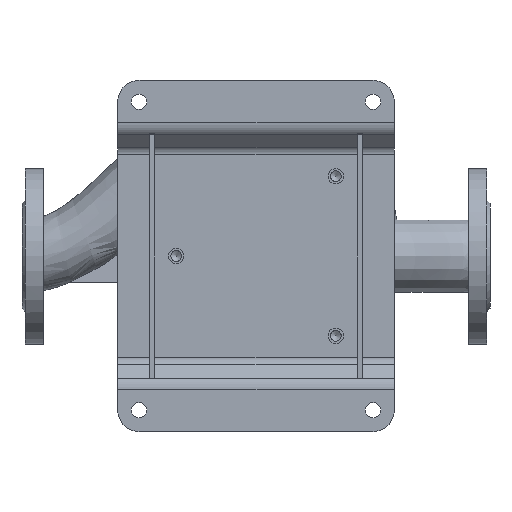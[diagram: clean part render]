
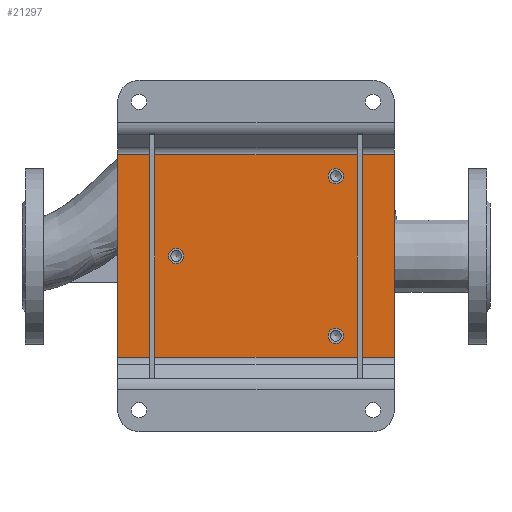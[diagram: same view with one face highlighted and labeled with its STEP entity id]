
A CAD part, top view. The second image highlights one B-rep face of the part: STEP entity #21297.
In plain terms, the highlighted planar face has unit normal (0, 0, 1) as drawn and (0, -1, 0) by its records, which use the part's own axes.
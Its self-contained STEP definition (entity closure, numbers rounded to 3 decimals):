
#841 = CARTESIAN_POINT ( 'NONE',  ( -75., -5., 67.75 ) ) ;
#2261 = DIRECTION ( 'NONE',  ( 0., -1., 0. ) ) ;
#2475 = CARTESIAN_POINT ( 'NONE',  ( 0., -5., 0. ) ) ;
#3588 = DIRECTION ( 'NONE',  ( -1., 0., 0. ) ) ;
#3911 = DIRECTION ( 'NONE',  ( 0., 0., -1. ) ) ;
#4252 = ORIENTED_EDGE ( 'NONE', *, *, #8319, .F. ) ;
#5294 = DIRECTION ( 'NONE',  ( 0., 0., -1. ) ) ;
#5466 = CIRCLE ( 'NONE', #34320, 7.25 ) ;
#5799 = EDGE_CURVE ( 'NONE', #19215, #19215, #31394, .T. ) ;
#7474 = DIRECTION ( 'NONE',  ( 1., 0., 0. ) ) ;
#7635 = AXIS2_PLACEMENT_3D ( 'NONE', #14058, #24221, #3911 ) ;
#8096 = VERTEX_POINT ( 'NONE', #841 ) ;
#8319 = EDGE_CURVE ( 'NONE', #14925, #28120, #9154, .T. ) ;
#8675 = LINE ( 'NONE', #39089, #27274 ) ;
#8800 = DIRECTION ( 'NONE',  ( 0., -1., 0. ) ) ;
#9154 = LINE ( 'NONE', #32087, #37732 ) ;
#9641 = VERTEX_POINT ( 'NONE', #18802 ) ;
#10101 = CARTESIAN_POINT ( 'NONE',  ( 95., -5., -130. ) ) ;
#10637 = CARTESIAN_POINT ( 'NONE',  ( -95., -5., -130. ) ) ;
#10903 = ORIENTED_EDGE ( 'NONE', *, *, #28308, .F. ) ;
#12045 = CARTESIAN_POINT ( 'NONE',  ( -75., -5., 75. ) ) ;
#12295 = EDGE_LOOP ( 'NONE', ( #25272 ) ) ;
#12627 = ORIENTED_EDGE ( 'NONE', *, *, #41726, .F. ) ;
#12928 = EDGE_LOOP ( 'NONE', ( #4252, #10903, #27423, #39652 ) ) ;
#13858 = CARTESIAN_POINT ( 'NONE',  ( -95., -5., 130. ) ) ;
#14058 = CARTESIAN_POINT ( 'NONE',  ( 0., -5., -75. ) ) ;
#14925 = VERTEX_POINT ( 'NONE', #20480 ) ;
#15599 = CARTESIAN_POINT ( 'NONE',  ( -95., -5., -130. ) ) ;
#15946 = DIRECTION ( 'NONE',  ( 0., 0., 1. ) ) ;
#16251 = AXIS2_PLACEMENT_3D ( 'NONE', #2475, #2261, #32445 ) ;
#16744 = EDGE_LOOP ( 'NONE', ( #32726 ) ) ;
#17707 = LINE ( 'NONE', #10637, #25516 ) ;
#18802 = CARTESIAN_POINT ( 'NONE',  ( -95., -5., 130. ) ) ;
#19030 = PLANE ( 'NONE',  #16251 ) ;
#19215 = VERTEX_POINT ( 'NONE', #29349 ) ;
#20480 = CARTESIAN_POINT ( 'NONE',  ( 95., -5., 130. ) ) ;
#21297 = ADVANCED_FACE ( 'NONE', ( #26072, #29371, #29155, #41934 ), #19030, .T. ) ;
#21989 = VERTEX_POINT ( 'NONE', #32725 ) ;
#22200 = DIRECTION ( 'NONE',  ( 0., 0., -1. ) ) ;
#22440 = DIRECTION ( 'NONE',  ( 0., 0., -1. ) ) ;
#24012 = EDGE_CURVE ( 'NONE', #28120, #28352, #17707, .T. ) ;
#24221 = DIRECTION ( 'NONE',  ( 0., -1., 0. ) ) ;
#24550 = CIRCLE ( 'NONE', #7635, 7.25 ) ;
#25272 = ORIENTED_EDGE ( 'NONE', *, *, #5799, .F. ) ;
#25516 = VECTOR ( 'NONE', #3588, 1000. ) ;
#26072 = FACE_BOUND ( 'NONE', #12295, .T. ) ;
#27274 = VECTOR ( 'NONE', #15946, 1000. ) ;
#27423 = ORIENTED_EDGE ( 'NONE', *, *, #37696, .F. ) ;
#28120 = VERTEX_POINT ( 'NONE', #10101 ) ;
#28308 = EDGE_CURVE ( 'NONE', #9641, #14925, #41420, .T. ) ;
#28352 = VERTEX_POINT ( 'NONE', #15599 ) ;
#29155 = FACE_BOUND ( 'NONE', #16744, .T. ) ;
#29349 = CARTESIAN_POINT ( 'NONE',  ( 75., -5., 67.75 ) ) ;
#29371 = FACE_BOUND ( 'NONE', #34195, .T. ) ;
#31394 = CIRCLE ( 'NONE', #33504, 7.25 ) ;
#32087 = CARTESIAN_POINT ( 'NONE',  ( 95., -5., 130. ) ) ;
#32445 = DIRECTION ( 'NONE',  ( 0., 0., -1. ) ) ;
#32725 = CARTESIAN_POINT ( 'NONE',  ( 0., -5., -82.25 ) ) ;
#32726 = ORIENTED_EDGE ( 'NONE', *, *, #35859, .F. ) ;
#32727 = DIRECTION ( 'NONE',  ( 0., -1., 0. ) ) ;
#33504 = AXIS2_PLACEMENT_3D ( 'NONE', #42299, #8800, #5294 ) ;
#34195 = EDGE_LOOP ( 'NONE', ( #12627 ) ) ;
#34320 = AXIS2_PLACEMENT_3D ( 'NONE', #12045, #32727, #22440 ) ;
#35859 = EDGE_CURVE ( 'NONE', #8096, #8096, #5466, .T. ) ;
#37696 = EDGE_CURVE ( 'NONE', #28352, #9641, #8675, .T. ) ;
#37732 = VECTOR ( 'NONE', #22200, 1000. ) ;
#39089 = CARTESIAN_POINT ( 'NONE',  ( -95., -5., 130. ) ) ;
#39446 = VECTOR ( 'NONE', #7474, 1000. ) ;
#39652 = ORIENTED_EDGE ( 'NONE', *, *, #24012, .F. ) ;
#41420 = LINE ( 'NONE', #13858, #39446 ) ;
#41726 = EDGE_CURVE ( 'NONE', #21989, #21989, #24550, .T. ) ;
#41934 = FACE_OUTER_BOUND ( 'NONE', #12928, .T. ) ;
#42299 = CARTESIAN_POINT ( 'NONE',  ( 75., -5., 75. ) ) ;
